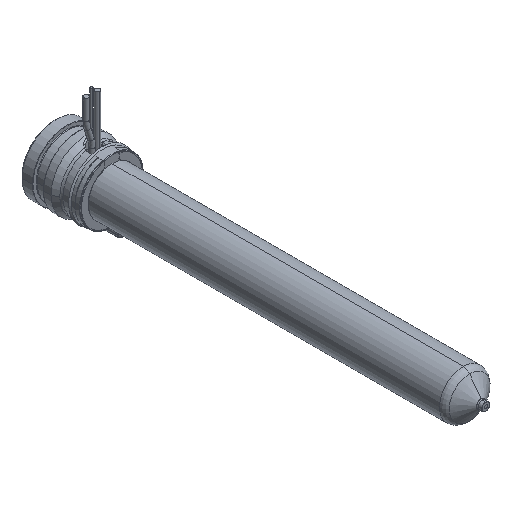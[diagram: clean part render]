
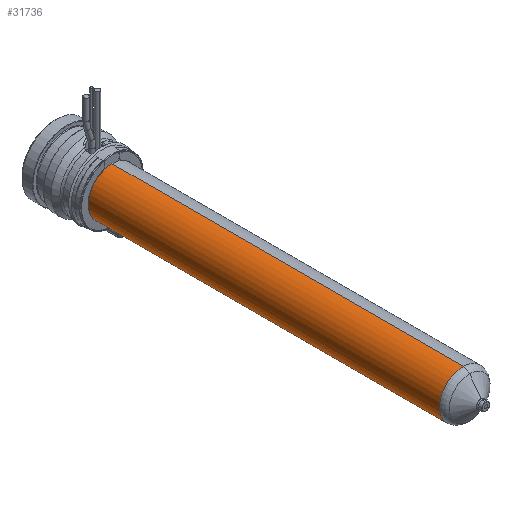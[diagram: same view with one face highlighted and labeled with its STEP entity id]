
A CAD part, isometric view. The second image highlights one B-rep face of the part: STEP entity #31736.
In plain terms, the highlighted cylindrical face has radius 9 mm (diameter 18 mm), a partial arc.
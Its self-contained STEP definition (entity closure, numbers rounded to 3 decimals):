
#31300=CARTESIAN_POINT('',(0.,-155.471,0.));
#31301=DIRECTION('',(0.,-1.,0.));
#31302=DIRECTION('',(0.,0.,1.));
#31303=AXIS2_PLACEMENT_3D('',#31300,#31301,#31302);
#31332=DIRECTION('',(0.,-1.,0.));
#31333=VECTOR('',#31332,133.471);
#31334=CARTESIAN_POINT('',(0.,-22.,9.));
#31335=LINE('',#31334,#31333);
#31347=DIRECTION('',(0.,-1.,0.));
#31348=VECTOR('',#31347,133.471);
#31349=CARTESIAN_POINT('',(0.,-22.,-9.));
#31350=LINE('',#31349,#31348);
#31354=CARTESIAN_POINT('',(0.,-22.,0.));
#31355=DIRECTION('',(0.,-1.,0.));
#31356=DIRECTION('',(0.,0.,1.));
#31357=AXIS2_PLACEMENT_3D('',#31354,#31355,#31356);
#31552=CARTESIAN_POINT('',(0.,-22.,9.));
#31553=CARTESIAN_POINT('',(0.,-155.471,9.));
#31554=VERTEX_POINT('',#31552);
#31555=VERTEX_POINT('',#31553);
#31564=CARTESIAN_POINT('',(0.,-22.,-9.));
#31565=CARTESIAN_POINT('',(0.,-155.471,-9.));
#31566=VERTEX_POINT('',#31564);
#31567=VERTEX_POINT('',#31565);
#31724=CARTESIAN_POINT('',(0.,-10.7,0.));
#31725=DIRECTION('',(0.,-1.,0.));
#31726=DIRECTION('',(0.,0.,1.));
#31727=AXIS2_PLACEMENT_3D('',#31724,#31725,#31726);
#31728=CYLINDRICAL_SURFACE('',#31727,9.);
#31729=ORIENTED_EDGE('',*,*,#31714,.T.);
#31730=ORIENTED_EDGE('',*,*,#31691,.T.);
#31731=ORIENTED_EDGE('',*,*,#31718,.F.);
#31733=ORIENTED_EDGE('',*,*,#31732,.F.);
#31734=EDGE_LOOP('',(#31729,#31730,#31731,#31733));
#31735=FACE_OUTER_BOUND('',#31734,.F.);
#31736=ADVANCED_FACE('',(#31735),#31728,.T.);
#31304=CIRCLE('',#31303,9.);
#31358=CIRCLE('',#31357,9.);
#31691=EDGE_CURVE('',#31555,#31567,#31304,.T.);
#31714=EDGE_CURVE('',#31554,#31555,#31335,.T.);
#31718=EDGE_CURVE('',#31566,#31567,#31350,.T.);
#31732=EDGE_CURVE('',#31554,#31566,#31358,.T.);
